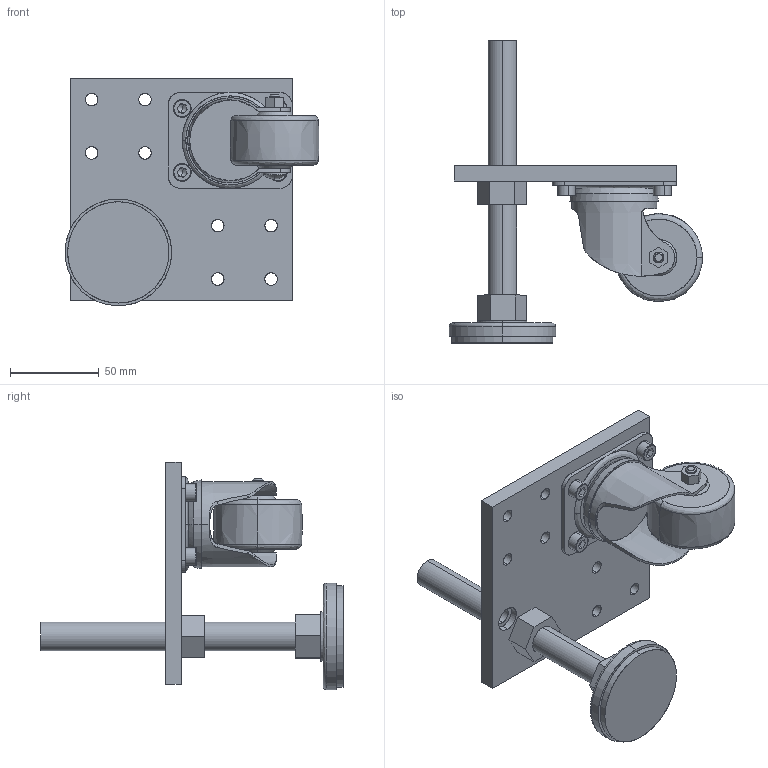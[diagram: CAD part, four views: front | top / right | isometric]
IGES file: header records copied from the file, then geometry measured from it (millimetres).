
Start section: SolidWorks IGES file using analytic representation for surfaces
Global section: file name: C:\Documents and Settings\Administrator\デスクトップ\7回目指定保存後\SolidWorks\SF\SF30\Parts\アジャスタ\SFK-512A.IGS; native system: SolidWorks 2006 by SolidWorks Corporation; preprocessor: SolidWorks 2006 by SolidWorks Corporation; author: Administrator; date: 061222.162126; units: millimetre
Bounding box: 142.95 x 170 x 128 mm (x, y, z)
Surface area: 82988.6 mm2 (no closed solid volume)
Topology: 0 solids, 0 shells, 270 faces, 7193 edges, 8452 vertices
Faces by surface type: bspline 144, revolution 126
